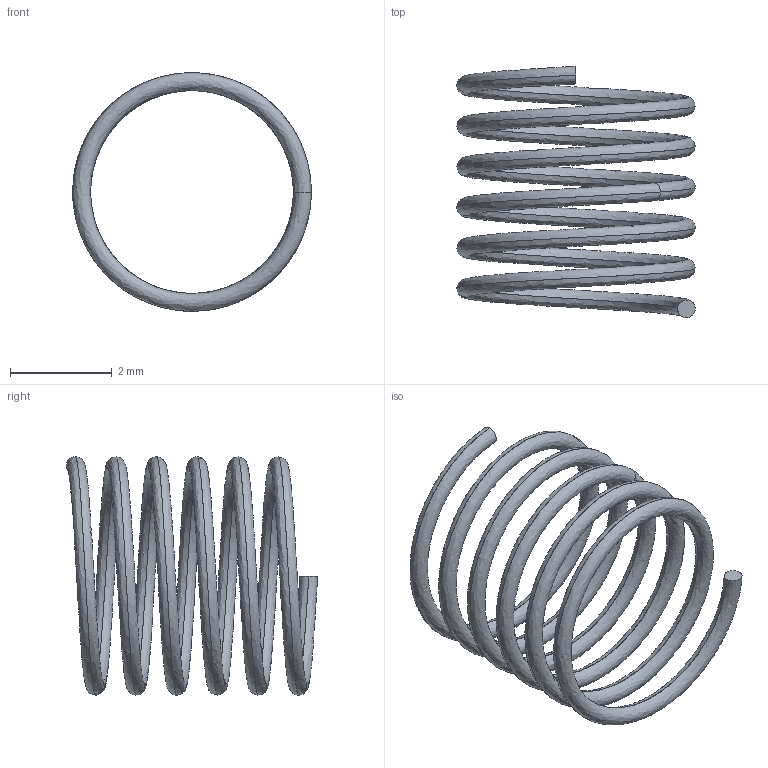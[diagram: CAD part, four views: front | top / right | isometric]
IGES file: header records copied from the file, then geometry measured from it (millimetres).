
Start section:  PTC IGES file: ma_jack_spring_2_prt.igs
Global section: file name: ma_jack_spring_2_prt.igs; native system: Pro/ENGINEER by Parametric Technology Corporation; preprocessor: 2000030; author: ECaille; organization: Unknown; date: 000803.092116; units: millimetre
Bounding box: 4.7 x 4.95 x 4.7 mm (x, y, z)
Surface area: 86.6 mm2 (no closed solid volume)
Topology: 0 solids, 0 shells, 6 faces, 32 edges, 44 vertices
Faces by surface type: bspline 6
